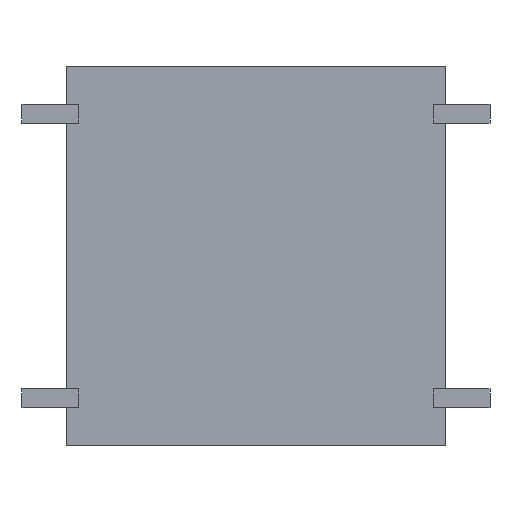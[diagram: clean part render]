
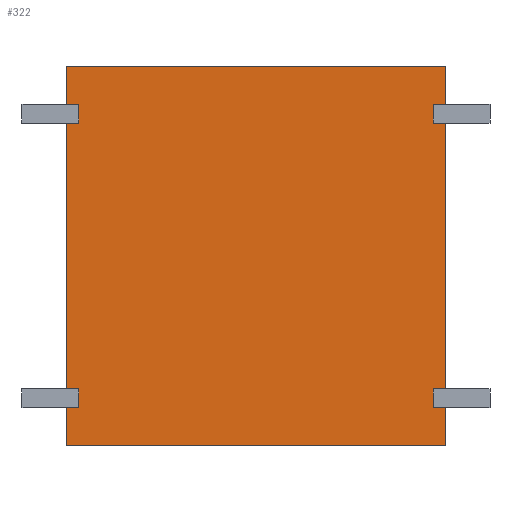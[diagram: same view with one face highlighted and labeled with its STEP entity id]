
A CAD part, left-side view. The second image highlights one B-rep face of the part: STEP entity #322.
In plain terms, the highlighted planar face has unit normal (-1, 0, 0).
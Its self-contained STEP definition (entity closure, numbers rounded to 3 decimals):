
#70 = PLANE('',#71);
#71 = AXIS2_PLACEMENT_3D('',#72,#73,#74);
#72 = CARTESIAN_POINT('',(35.7,-6.,-6.2));
#73 = DIRECTION('',(0.,0.,1.));
#74 = DIRECTION('',(1.,0.,-0.));
#95 = VERTEX_POINT('',#96);
#96 = CARTESIAN_POINT('',(33.9,-3.,-6.2));
#110 = PLANE('',#111);
#111 = AXIS2_PLACEMENT_3D('',#112,#113,#114);
#112 = CARTESIAN_POINT('',(35.7,-3.,-9.2));
#113 = DIRECTION('',(0.,-1.,0.));
#114 = DIRECTION('',(0.,0.,-1.));
#122 = EDGE_CURVE('',#95,#123,#125,.T.);
#123 = VERTEX_POINT('',#124);
#124 = CARTESIAN_POINT('',(33.9,-9.,-6.2));
#125 = SURFACE_CURVE('',#126,(#130,#137),.PCURVE_S1.);
#126 = LINE('',#127,#128);
#127 = CARTESIAN_POINT('',(33.9,-6.,-6.2));
#128 = VECTOR('',#129,1.);
#129 = DIRECTION('',(0.,-1.,0.));
#130 = PCURVE('',#70,#131);
#131 = DEFINITIONAL_REPRESENTATION('',(#132),#136);
#132 = LINE('',#133,#134);
#133 = CARTESIAN_POINT('',(-1.8,0.));
#134 = VECTOR('',#135,1.);
#135 = DIRECTION('',(0.,-1.));
#136 = ( GEOMETRIC_REPRESENTATION_CONTEXT(2) 
PARAMETRIC_REPRESENTATION_CONTEXT() REPRESENTATION_CONTEXT('2D SPACE',''
  ) );
#137 = PCURVE('',#138,#143);
#138 = PLANE('',#139);
#139 = AXIS2_PLACEMENT_3D('',#140,#141,#142);
#140 = CARTESIAN_POINT('',(33.9,-6.,-9.2));
#141 = DIRECTION('',(1.,0.,0.));
#142 = DIRECTION('',(0.,0.,-1.));
#143 = DEFINITIONAL_REPRESENTATION('',(#144),#148);
#144 = LINE('',#145,#146);
#145 = CARTESIAN_POINT('',(-3.,0.));
#146 = VECTOR('',#147,1.);
#147 = DIRECTION('',(0.,-1.));
#148 = ( GEOMETRIC_REPRESENTATION_CONTEXT(2) 
PARAMETRIC_REPRESENTATION_CONTEXT() REPRESENTATION_CONTEXT('2D SPACE',''
  ) );
#164 = PLANE('',#165);
#165 = AXIS2_PLACEMENT_3D('',#166,#167,#168);
#166 = CARTESIAN_POINT('',(35.7,-9.,-9.2));
#167 = DIRECTION('',(0.,1.,0.));
#168 = DIRECTION('',(0.,-0.,1.));
#190 = PLANE('',#191);
#191 = AXIS2_PLACEMENT_3D('',#192,#193,#194);
#192 = CARTESIAN_POINT('',(35.7,-6.,-12.2));
#193 = DIRECTION('',(0.,0.,1.));
#194 = DIRECTION('',(1.,0.,-0.));
#210 = VERTEX_POINT('',#211);
#211 = CARTESIAN_POINT('',(33.9,-9.,-12.2));
#232 = EDGE_CURVE('',#210,#233,#235,.T.);
#233 = VERTEX_POINT('',#234);
#234 = CARTESIAN_POINT('',(33.9,-3.,-12.2));
#235 = SURFACE_CURVE('',#236,(#240,#247),.PCURVE_S1.);
#236 = LINE('',#237,#238);
#237 = CARTESIAN_POINT('',(33.9,-6.,-12.2));
#238 = VECTOR('',#239,1.);
#239 = DIRECTION('',(0.,1.,0.));
#240 = PCURVE('',#190,#241);
#241 = DEFINITIONAL_REPRESENTATION('',(#242),#246);
#242 = LINE('',#243,#244);
#243 = CARTESIAN_POINT('',(-1.8,0.));
#244 = VECTOR('',#245,1.);
#245 = DIRECTION('',(0.,1.));
#246 = ( GEOMETRIC_REPRESENTATION_CONTEXT(2) 
PARAMETRIC_REPRESENTATION_CONTEXT() REPRESENTATION_CONTEXT('2D SPACE',''
  ) );
#247 = PCURVE('',#138,#248);
#248 = DEFINITIONAL_REPRESENTATION('',(#249),#253);
#249 = LINE('',#250,#251);
#250 = CARTESIAN_POINT('',(3.,0.));
#251 = VECTOR('',#252,1.);
#252 = DIRECTION('',(0.,1.));
#253 = ( GEOMETRIC_REPRESENTATION_CONTEXT(2) 
PARAMETRIC_REPRESENTATION_CONTEXT() REPRESENTATION_CONTEXT('2D SPACE',''
  ) );
#279 = EDGE_CURVE('',#123,#210,#280,.T.);
#280 = SURFACE_CURVE('',#281,(#285,#292),.PCURVE_S1.);
#281 = LINE('',#282,#283);
#282 = CARTESIAN_POINT('',(33.9,-9.,-9.2));
#283 = VECTOR('',#284,1.);
#284 = DIRECTION('',(0.,0.,-1.));
#285 = PCURVE('',#164,#286);
#286 = DEFINITIONAL_REPRESENTATION('',(#287),#291);
#287 = LINE('',#288,#289);
#288 = CARTESIAN_POINT('',(0.,-1.8));
#289 = VECTOR('',#290,1.);
#290 = DIRECTION('',(-1.,0.));
#291 = ( GEOMETRIC_REPRESENTATION_CONTEXT(2) 
PARAMETRIC_REPRESENTATION_CONTEXT() REPRESENTATION_CONTEXT('2D SPACE',''
  ) );
#292 = PCURVE('',#138,#293);
#293 = DEFINITIONAL_REPRESENTATION('',(#294),#298);
#294 = LINE('',#295,#296);
#295 = CARTESIAN_POINT('',(0.,-3.));
#296 = VECTOR('',#297,1.);
#297 = DIRECTION('',(1.,0.));
#298 = ( GEOMETRIC_REPRESENTATION_CONTEXT(2) 
PARAMETRIC_REPRESENTATION_CONTEXT() REPRESENTATION_CONTEXT('2D SPACE',''
  ) );
#322 = ADVANCED_FACE('',(#323),#138,.F.);
#323 = FACE_BOUND('',#324,.T.);
#324 = EDGE_LOOP('',(#325,#346,#347,#348));
#325 = ORIENTED_EDGE('',*,*,#326,.T.);
#326 = EDGE_CURVE('',#95,#233,#327,.T.);
#327 = SURFACE_CURVE('',#328,(#332,#339),.PCURVE_S1.);
#328 = LINE('',#329,#330);
#329 = CARTESIAN_POINT('',(33.9,-3.,-9.2));
#330 = VECTOR('',#331,1.);
#331 = DIRECTION('',(0.,0.,-1.));
#332 = PCURVE('',#138,#333);
#333 = DEFINITIONAL_REPRESENTATION('',(#334),#338);
#334 = LINE('',#335,#336);
#335 = CARTESIAN_POINT('',(0.,3.));
#336 = VECTOR('',#337,1.);
#337 = DIRECTION('',(1.,0.));
#338 = ( GEOMETRIC_REPRESENTATION_CONTEXT(2) 
PARAMETRIC_REPRESENTATION_CONTEXT() REPRESENTATION_CONTEXT('2D SPACE',''
  ) );
#339 = PCURVE('',#110,#340);
#340 = DEFINITIONAL_REPRESENTATION('',(#341),#345);
#341 = LINE('',#342,#343);
#342 = CARTESIAN_POINT('',(0.,-1.8));
#343 = VECTOR('',#344,1.);
#344 = DIRECTION('',(1.,0.));
#345 = ( GEOMETRIC_REPRESENTATION_CONTEXT(2) 
PARAMETRIC_REPRESENTATION_CONTEXT() REPRESENTATION_CONTEXT('2D SPACE',''
  ) );
#346 = ORIENTED_EDGE('',*,*,#232,.F.);
#347 = ORIENTED_EDGE('',*,*,#279,.F.);
#348 = ORIENTED_EDGE('',*,*,#122,.F.);
